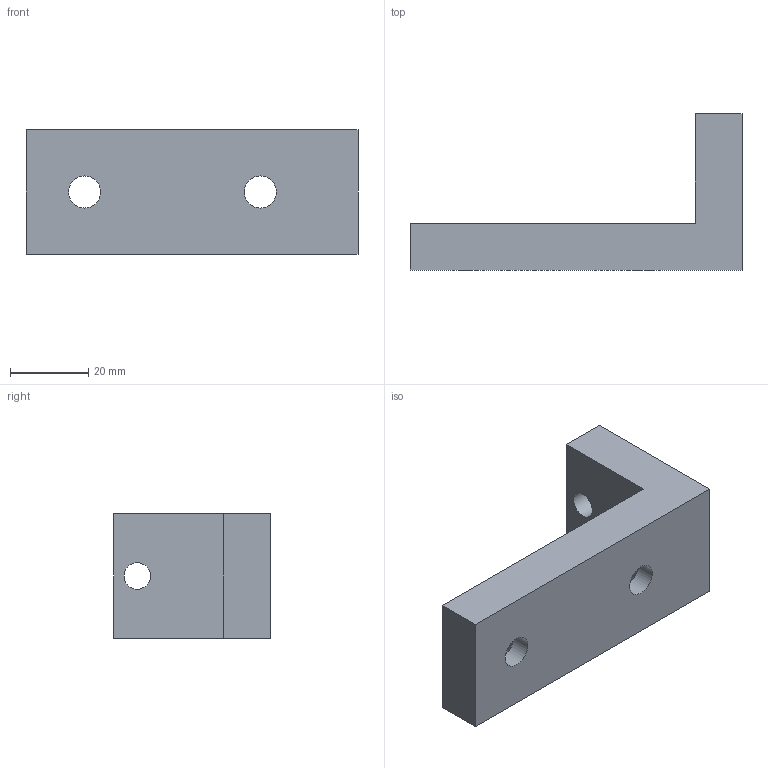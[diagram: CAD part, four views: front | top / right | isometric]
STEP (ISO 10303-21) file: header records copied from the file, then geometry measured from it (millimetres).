
FILE_DESCRIPTION(/* description */ (''),/* implementation_level */ '2;1');
FILE_NAME(/* name */ '037_staffa_regolaz#12.stp',/* time_stamp */ '2020-01-08T15:06:16+01:00',/* author */ (''),/* organization */ (''),/* preprocessor_version */ 'ST-DEVELOPER v16.7',/* originating_system */ 'SIEMENS PLM Software NX 12.0',/* authorisation */ '');
FILE_SCHEMA (('AUTOMOTIVE_DESIGN { 1 0 10303 214 3 1 1 1 }'));
Length unit declared in the file: millimetre
Products named in the file (1): bez2C70411Cqd0u
Bounding box: 85 x 40 x 32 mm (x, y, z)
Volume: 40017.2 mm3; surface area: 11340.5 mm2
Topology: 1 solids, 1 shells, 15 faces, 36 edges, 23 vertices
Faces by surface type: plane 8, cylinder 5, cone 2
Full cylindrical faces by diameter (mm): 6.8 x1, 8.2 x2, 18 x2
Entity records: 436 total; most frequent: DIRECTION 70, CARTESIAN_POINT 66, ORIENTED_EDGE 56, EDGE_LOOP 28, EDGE_CURVE 28, AXIS2_PLACEMENT_3D 26, FACE_BOUND 24, VERTEX_POINT 22
